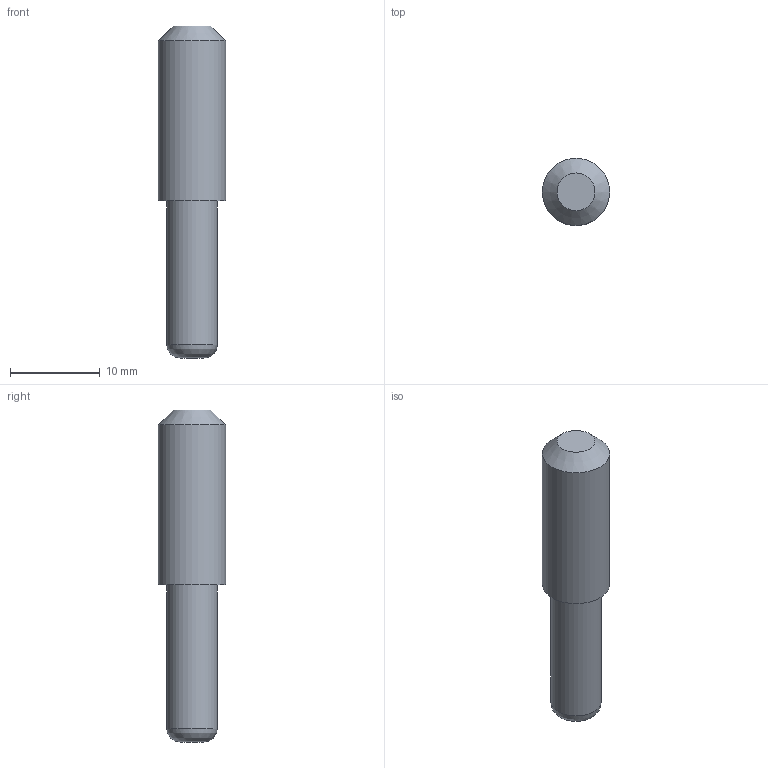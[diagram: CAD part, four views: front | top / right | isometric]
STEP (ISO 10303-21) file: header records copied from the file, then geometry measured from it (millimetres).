
FILE_DESCRIPTION(/* description */ (''),/* implementation_level */ '2;1');
FILE_NAME(/* name */ 'D:/Pew Pews/FGC-9_MkII_Stingray_Edition/Stingray Edition/.step files/2 - Lower/Magazine Catch Button.step',/* time_stamp */ '2022-05-12T09:41:29-06:00',/* author */ (''),/* organization */ (''),/* preprocessor_version */ 'ST-DEVELOPER v18.1',/* originating_system */ 'Autodesk Translation Framework v10.10.0.1391',/* authorisation */ '');
FILE_SCHEMA (('AUTOMOTIVE_DESIGN { 1 0 10303 214 3 1 1 }'));
Length unit declared in the file: millimetre
Products named in the file (1): Magazine Catch Button
Bounding box: 7.5 x 7.5 x 37 mm (x, y, z)
Volume: 1265.5 mm3; surface area: 819.8 mm2
Topology: 1 solids, 1 shells, 7 faces, 11 edges, 7 vertices
Faces by surface type: plane 3, cylinder 2, bspline 1, cone 1
Full cylindrical faces by diameter (mm): 5.65 x1, 7.5 x1
Entity records: 227 total; most frequent: CARTESIAN_POINT 52, DIRECTION 33, ORIENTED_EDGE 22, AXIS2_PLACEMENT_3D 15, EDGE_CURVE 11, EDGE_LOOP 8, CIRCLE 8, FACE_OUTER_BOUND 7
